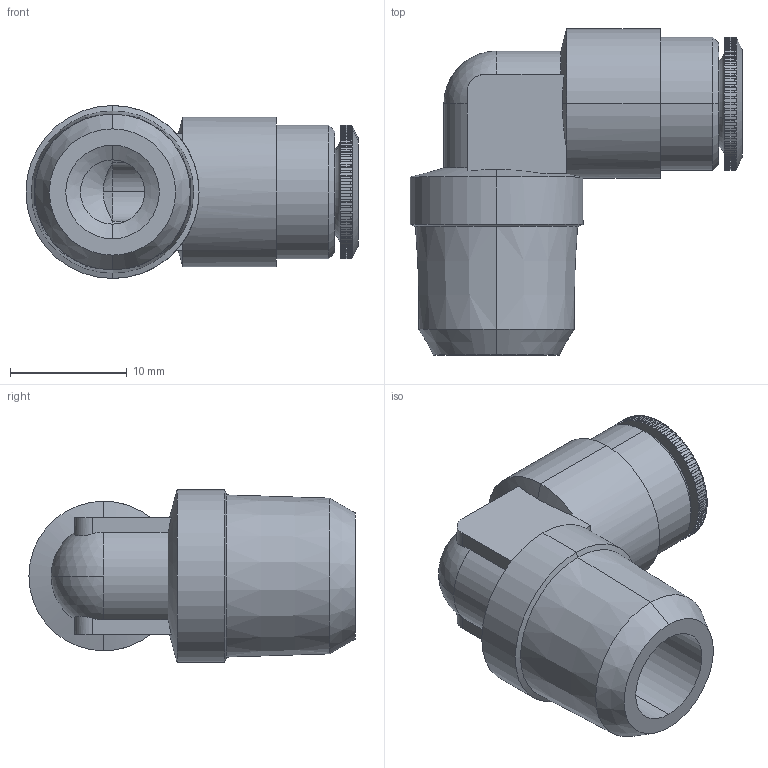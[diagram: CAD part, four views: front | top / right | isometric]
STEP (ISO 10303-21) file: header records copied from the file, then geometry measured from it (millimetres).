
FILE_DESCRIPTION (( 'STEP AP214' ), '1' );
FILE_NAME ('5810000009A.step', '2020-02-21T08:26:50', ( 'AIGNEP' ), ( 'Hewlett-Packard Company' ), 'SwSTEP 2.0', 'SolidWorks 2016', '' );
FILE_SCHEMA (( 'AUTOMOTIVE_DESIGN' ));
Length unit declared in the file: millimetre
Products named in the file (1): 5810000009A
Bounding box: 28.4 x 27.9 x 14.8 mm (x, y, z)
Volume: 3547.6 mm3; surface area: 2871.2 mm2
Topology: 1 solids, 1 shells, 365 faces, 1036 edges, 679 vertices
Faces by surface type: plane 228, cylinder 96, cone 33, torus 6, sphere 2
Entity records: 16154 total; most frequent: CARTESIAN_POINT 2885, ORIENTED_EDGE 2072, DIRECTION 1765, EDGE_CURVE 1036, VERTEX_POINT 679, AXIS2_PLACEMENT_3D 602, VECTOR 561, LINE 561
